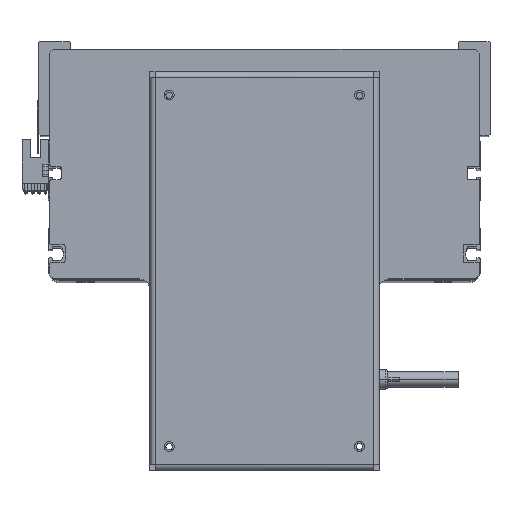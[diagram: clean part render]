
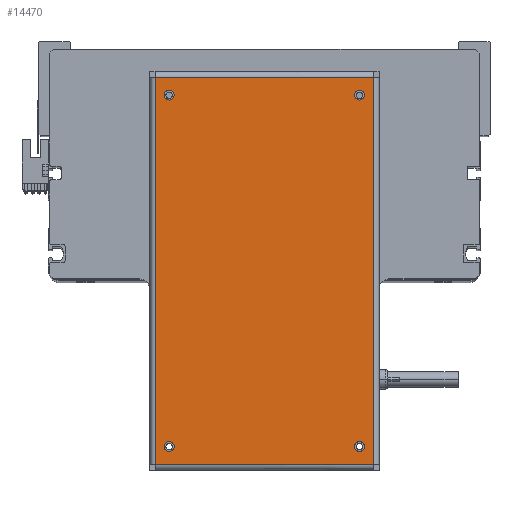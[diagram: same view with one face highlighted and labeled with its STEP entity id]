
A CAD part, top view. The second image highlights one B-rep face of the part: STEP entity #14470.
In plain terms, the highlighted planar face has unit normal (0, 0, 1).
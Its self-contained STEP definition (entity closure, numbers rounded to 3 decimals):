
#50 = VERTEX_POINT ( 'NONE', #32828 ) ;
#91 = VERTEX_POINT ( 'NONE', #33481 ) ;
#336 = EDGE_CURVE ( 'NONE', #35104, #39058, #37495, .T. ) ;
#403 = FACE_BOUND ( 'NONE', #12491, .T. ) ;
#1011 = EDGE_LOOP ( 'NONE', ( #29923, #3799, #37095, #29616 ) ) ;
#1041 = CARTESIAN_POINT ( 'NONE',  ( -89.55, 48.5, 0. ) ) ;
#2338 = VECTOR ( 'NONE', #11992, 1000. ) ;
#2832 = CARTESIAN_POINT ( 'NONE',  ( -98.65, 55.6, 0. ) ) ;
#2843 = DIRECTION ( 'NONE',  ( 1., 0., 0. ) ) ;
#2959 = AXIS2_PLACEMENT_3D ( 'NONE', #29619, #38691, #38840 ) ;
#3255 = FACE_BOUND ( 'NONE', #14432, .T. ) ;
#3717 = CARTESIAN_POINT ( 'NONE',  ( -87.05, 48.5, 0. ) ) ;
#3799 = ORIENTED_EDGE ( 'NONE', *, *, #32644, .T. ) ;
#4181 = DIRECTION ( 'NONE',  ( 1., 0., 0. ) ) ;
#4587 = VERTEX_POINT ( 'NONE', #34585 ) ;
#5292 = VERTEX_POINT ( 'NONE', #12827 ) ;
#5544 = DIRECTION ( 'NONE',  ( 1., 0., 0. ) ) ;
#5558 = PLANE ( 'NONE',  #2959 ) ;
#5601 = FACE_OUTER_BOUND ( 'NONE', #1011, .T. ) ;
#5748 = VERTEX_POINT ( 'NONE', #33108 ) ;
#6002 = CARTESIAN_POINT ( 'NONE',  ( -87.05, -48.5, 0. ) ) ;
#6947 = LINE ( 'NONE', #2832, #22188 ) ;
#7812 = CARTESIAN_POINT ( 'NONE',  ( -89.55, -48.5, 0. ) ) ;
#7821 = CARTESIAN_POINT ( 'NONE',  ( 87.05, -48.5, 0. ) ) ;
#8239 = DIRECTION ( 'NONE',  ( 0., 0., 1. ) ) ;
#8378 = CARTESIAN_POINT ( 'NONE',  ( -89.55, -48.5, 0. ) ) ;
#9045 = EDGE_CURVE ( 'NONE', #91, #12115, #24709, .T. ) ;
#9670 = CARTESIAN_POINT ( 'NONE',  ( 92.05, 48.5, 0. ) ) ;
#11284 = VERTEX_POINT ( 'NONE', #36082 ) ;
#11747 = ORIENTED_EDGE ( 'NONE', *, *, #21473, .F. ) ;
#11817 = VERTEX_POINT ( 'NONE', #3717 ) ;
#11992 = DIRECTION ( 'NONE',  ( -1., 0., 0. ) ) ;
#12088 = EDGE_CURVE ( 'NONE', #5292, #11817, #22947, .T. ) ;
#12115 = VERTEX_POINT ( 'NONE', #33325 ) ;
#12208 = DIRECTION ( 'NONE',  ( 0., 0., 1. ) ) ;
#12346 = CARTESIAN_POINT ( 'NONE',  ( -89.55, 48.5, 0. ) ) ;
#12443 = ORIENTED_EDGE ( 'NONE', *, *, #18819, .F. ) ;
#12470 = DIRECTION ( 'NONE',  ( 0., 0., 1. ) ) ;
#12491 = EDGE_LOOP ( 'NONE', ( #13778, #24607 ) ) ;
#12603 = DIRECTION ( 'NONE',  ( 1., 0., 0. ) ) ;
#12827 = CARTESIAN_POINT ( 'NONE',  ( -92.05, 48.5, 0. ) ) ;
#13201 = DIRECTION ( 'NONE',  ( 1., 0., 0. ) ) ;
#13778 = ORIENTED_EDGE ( 'NONE', *, *, #32029, .F. ) ;
#14058 = DIRECTION ( 'NONE',  ( 1., 0., 0. ) ) ;
#14294 = AXIS2_PLACEMENT_3D ( 'NONE', #8378, #8239, #29492 ) ;
#14380 = AXIS2_PLACEMENT_3D ( 'NONE', #27898, #12470, #12603 ) ;
#14432 = EDGE_LOOP ( 'NONE', ( #27176, #21470 ) ) ;
#14460 = DIRECTION ( 'NONE',  ( 1., 0., 0. ) ) ;
#14470 = ADVANCED_FACE ( 'NONE', ( #3255, #37036, #21808, #403, #5601 ), #5558, .F. ) ;
#15105 = CARTESIAN_POINT ( 'NONE',  ( 89.55, -48.5, 0. ) ) ;
#15937 = DIRECTION ( 'NONE',  ( 0., 0., 1. ) ) ;
#15940 = EDGE_CURVE ( 'NONE', #39058, #35104, #38411, .T. ) ;
#17118 = AXIS2_PLACEMENT_3D ( 'NONE', #7812, #36140, #5544 ) ;
#17189 = LINE ( 'NONE', #37656, #31376 ) ;
#17461 = CIRCLE ( 'NONE', #38287, 2.5 ) ;
#18160 = CARTESIAN_POINT ( 'NONE',  ( 98.75, 55.6, 0. ) ) ;
#18819 = EDGE_CURVE ( 'NONE', #23295, #11284, #17461, .T. ) ;
#18985 = EDGE_CURVE ( 'NONE', #12115, #50, #6947, .T. ) ;
#19200 = DIRECTION ( 'NONE',  ( 0., 1., 0. ) ) ;
#20300 = CARTESIAN_POINT ( 'NONE',  ( 89.55, 48.5, 0. ) ) ;
#20415 = CARTESIAN_POINT ( 'NONE',  ( 89.55, -48.5, 0. ) ) ;
#20616 = VECTOR ( 'NONE', #19200, 1000. ) ;
#21470 = ORIENTED_EDGE ( 'NONE', *, *, #15940, .F. ) ;
#21473 = EDGE_CURVE ( 'NONE', #11817, #5292, #22963, .T. ) ;
#21668 = AXIS2_PLACEMENT_3D ( 'NONE', #15105, #23863, #2843 ) ;
#21808 = FACE_BOUND ( 'NONE', #36222, .T. ) ;
#21898 = CIRCLE ( 'NONE', #27966, 2.5 ) ;
#22188 = VECTOR ( 'NONE', #29943, 1000. ) ;
#22947 = CIRCLE ( 'NONE', #24286, 2.5 ) ;
#22963 = CIRCLE ( 'NONE', #33239, 2.5 ) ;
#22975 = EDGE_CURVE ( 'NONE', #5748, #24808, #21898, .T. ) ;
#23295 = VERTEX_POINT ( 'NONE', #7821 ) ;
#23351 = DIRECTION ( 'NONE',  ( 0., 0., 1. ) ) ;
#23863 = DIRECTION ( 'NONE',  ( 0., 0., 1. ) ) ;
#24286 = AXIS2_PLACEMENT_3D ( 'NONE', #12346, #12208, #36669 ) ;
#24607 = ORIENTED_EDGE ( 'NONE', *, *, #22975, .F. ) ;
#24709 = LINE ( 'NONE', #18160, #2338 ) ;
#24808 = VERTEX_POINT ( 'NONE', #9670 ) ;
#27176 = ORIENTED_EDGE ( 'NONE', *, *, #336, .F. ) ;
#27898 = CARTESIAN_POINT ( 'NONE',  ( 89.55, 48.5, 0. ) ) ;
#27966 = AXIS2_PLACEMENT_3D ( 'NONE', #20300, #23351, #14460 ) ;
#28458 = EDGE_CURVE ( 'NONE', #4587, #91, #29624, .T. ) ;
#29492 = DIRECTION ( 'NONE',  ( 1., 0., 0. ) ) ;
#29512 = CIRCLE ( 'NONE', #14380, 2.5 ) ;
#29616 = ORIENTED_EDGE ( 'NONE', *, *, #9045, .T. ) ;
#29619 = CARTESIAN_POINT ( 'NONE',  ( 98.75, 58.5, 0. ) ) ;
#29624 = LINE ( 'NONE', #34330, #20616 ) ;
#29923 = ORIENTED_EDGE ( 'NONE', *, *, #18985, .T. ) ;
#29943 = DIRECTION ( 'NONE',  ( 0., -1., 0. ) ) ;
#31376 = VECTOR ( 'NONE', #13201, 1000. ) ;
#31502 = ORIENTED_EDGE ( 'NONE', *, *, #12088, .F. ) ;
#32029 = EDGE_CURVE ( 'NONE', #24808, #5748, #29512, .T. ) ;
#32148 = ORIENTED_EDGE ( 'NONE', *, *, #37412, .F. ) ;
#32644 = EDGE_CURVE ( 'NONE', #50, #4587, #17189, .T. ) ;
#32828 = CARTESIAN_POINT ( 'NONE',  ( -98.65, -55.6, 0. ) ) ;
#33108 = CARTESIAN_POINT ( 'NONE',  ( 87.05, 48.5, 0. ) ) ;
#33239 = AXIS2_PLACEMENT_3D ( 'NONE', #1041, #15937, #4181 ) ;
#33325 = CARTESIAN_POINT ( 'NONE',  ( -98.65, 55.6, 0. ) ) ;
#33481 = CARTESIAN_POINT ( 'NONE',  ( 98.65, 55.6, 0. ) ) ;
#34330 = CARTESIAN_POINT ( 'NONE',  ( 98.65, -55.6, 0. ) ) ;
#34585 = CARTESIAN_POINT ( 'NONE',  ( 98.65, -55.6, 0. ) ) ;
#35104 = VERTEX_POINT ( 'NONE', #6002 ) ;
#35818 = DIRECTION ( 'NONE',  ( 0., 0., 1. ) ) ;
#36082 = CARTESIAN_POINT ( 'NONE',  ( 92.05, -48.5, 0. ) ) ;
#36140 = DIRECTION ( 'NONE',  ( 0., 0., 1. ) ) ;
#36222 = EDGE_LOOP ( 'NONE', ( #32148, #12443 ) ) ;
#36669 = DIRECTION ( 'NONE',  ( 1., 0., 0. ) ) ;
#37036 = FACE_BOUND ( 'NONE', #38004, .T. ) ;
#37095 = ORIENTED_EDGE ( 'NONE', *, *, #28458, .T. ) ;
#37412 = EDGE_CURVE ( 'NONE', #11284, #23295, #37435, .T. ) ;
#37435 = CIRCLE ( 'NONE', #21668, 2.5 ) ;
#37495 = CIRCLE ( 'NONE', #14294, 2.5 ) ;
#37656 = CARTESIAN_POINT ( 'NONE',  ( -98.75, -55.6, 0. ) ) ;
#38004 = EDGE_LOOP ( 'NONE', ( #11747, #31502 ) ) ;
#38287 = AXIS2_PLACEMENT_3D ( 'NONE', #20415, #35818, #14058 ) ;
#38411 = CIRCLE ( 'NONE', #17118, 2.5 ) ;
#38686 = CARTESIAN_POINT ( 'NONE',  ( -92.05, -48.5, 0. ) ) ;
#38691 = DIRECTION ( 'NONE',  ( 0., 0., -1. ) ) ;
#38840 = DIRECTION ( 'NONE',  ( -1., 0., 0. ) ) ;
#39058 = VERTEX_POINT ( 'NONE', #38686 ) ;
